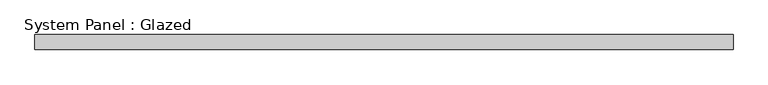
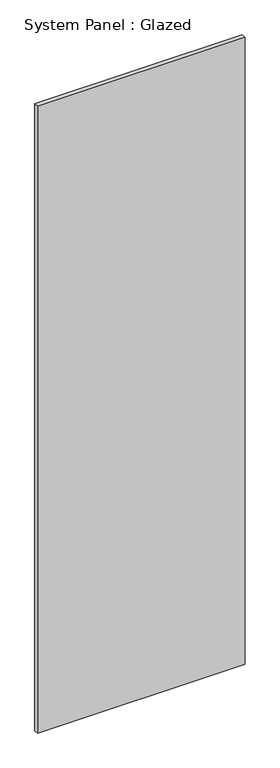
"""IFC4 building model written with IfcOpenShell, lengths in millimetres: plate geometry, System Panel : Glazed."""

from ifc_helpers import new_model, si_unit, origin, origin_with_axes, place, context, project, spatial, polyline, outline, extrude, source, transform, mapped, element, save


def system_panel_glazed_4a693619(model_context):
    return source(origin(), model_context, "Body", "SweptSolid", [
        extrude(outline(polyline([(587.8744819, 19.05), (-587.8744819, 19.05), (-587.8744819, 44.45), (587.8744819, 44.45), (587.8744819, 19.05)])), origin_with_axes(), (0.0, 0.0, 1.0), 3746.5),
    ])


if __name__ == "__main__":
    model = new_model("IFC4")
    model_context = context("Model", 3, world=origin())
    ifc_project = project(units=[si_unit("LENGTHUNIT", "METRE", prefix="MILLI")], contexts=[model_context])
    site = spatial("IfcSite", under=ifc_project)
    building = spatial("IfcBuilding", under=site)
    placement = place(None, origin())
    system_panel_glazed_shape = system_panel_glazed_4a693619(model_context)
    element("IfcPlate", 1, ObjectType="System Panel : Glazed", at=placement, inside=building, context=model_context, shape_type="MappedRepresentation", body=[
        mapped(system_panel_glazed_shape, transform((0.0, 0.0, 0.0), x_axis=(1.0, 0.0, 0.0), y_axis=(0.0, 1.0, 0.0), z_axis=(0.0, 0.0, 1.0))),
    ])
    save(model, "model.ifc")
